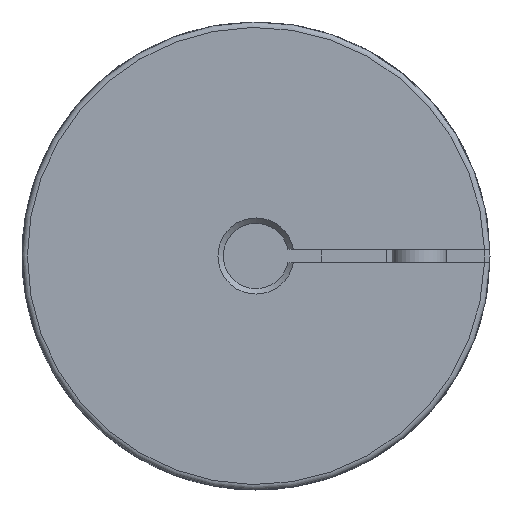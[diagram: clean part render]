
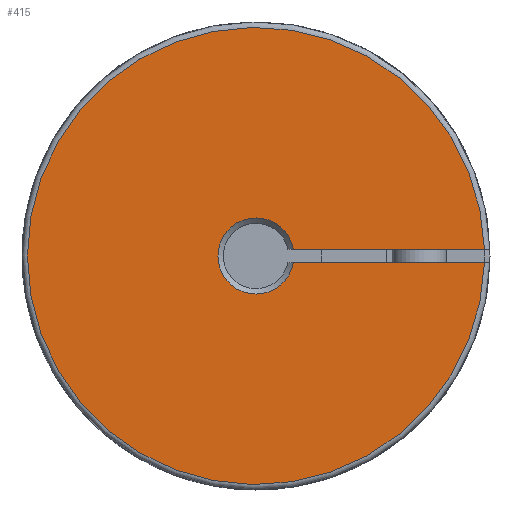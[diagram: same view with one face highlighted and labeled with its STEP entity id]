
A CAD part, left-side view. The second image highlights one B-rep face of the part: STEP entity #415.
In plain terms, the highlighted planar face has unit normal (-1, 0, 0).
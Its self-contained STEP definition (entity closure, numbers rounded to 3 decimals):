
#415 = ADVANCED_FACE( '', ( #869 ), #870, .T. );
#869 = FACE_OUTER_BOUND( '', #1342, .T. );
#870 = PLANE( '', #1343 );
#1342 = EDGE_LOOP( '', ( #2516, #2517, #2518, #2519 ) );
#1343 = AXIS2_PLACEMENT_3D( '', #2520, #2521, #2522 );
#2516 = ORIENTED_EDGE( '', *, *, #2870, .T. );
#2517 = ORIENTED_EDGE( '', *, *, #3150, .T. );
#2518 = ORIENTED_EDGE( '', *, *, #3213, .F. );
#2519 = ORIENTED_EDGE( '', *, *, #2956, .T. );
#2520 = CARTESIAN_POINT( '', ( 0., 0., 3. ) );
#2521 = DIRECTION( '', ( -1., 0., 0. ) );
#2522 = DIRECTION( '', ( 0., 0., 1. ) );
#2870 = EDGE_CURVE( '', #3488, #3486, #3489, .T. );
#2956 = EDGE_CURVE( '', #3617, #3488, #3620, .T. );
#3150 = EDGE_CURVE( '', #3486, #3901, #3903, .T. );
#3213 = EDGE_CURVE( '', #3617, #3901, #3973, .T. );
#3486 = VERTEX_POINT( '', #4422 );
#3488 = VERTEX_POINT( '', #4424 );
#3489 = LINE( '', #4425, #4426 );
#3617 = VERTEX_POINT( '', #4689 );
#3620 = CIRCLE( '', #4697, 21. );
#3901 = VERTEX_POINT( '', #5079 );
#3903 = CIRCLE( '', #5081, 3.5 );
#3973 = LINE( '', #5324, #5325 );
#4422 = CARTESIAN_POINT( '', ( 0., -3.448, -0.6 ) );
#4424 = CARTESIAN_POINT( '', ( 0., -20.991, -0.6 ) );
#4425 = CARTESIAN_POINT( '', ( 0., 0., -0.6 ) );
#4426 = VECTOR( '', #5517, 1000. );
#4689 = CARTESIAN_POINT( '', ( 0., -20.991, 0.6 ) );
#4697 = AXIS2_PLACEMENT_3D( '', #5609, #5610, #5611 );
#5079 = CARTESIAN_POINT( '', ( 0., -3.448, 0.6 ) );
#5081 = AXIS2_PLACEMENT_3D( '', #5883, #5884, #5885 );
#5324 = CARTESIAN_POINT( '', ( 0., 0., 0.6 ) );
#5325 = VECTOR( '', #5935, 1000. );
#5517 = DIRECTION( '', ( 0., 1., 0. ) );
#5609 = CARTESIAN_POINT( '', ( 0., 0., 0. ) );
#5610 = DIRECTION( '', ( -1., 0., 0. ) );
#5611 = DIRECTION( '', ( 0., 0., 1. ) );
#5883 = CARTESIAN_POINT( '', ( 0., 0., 0. ) );
#5884 = DIRECTION( '', ( 1., 0., 0. ) );
#5885 = DIRECTION( '', ( 0., 0., 1. ) );
#5935 = DIRECTION( '', ( 0., 1., 0. ) );
